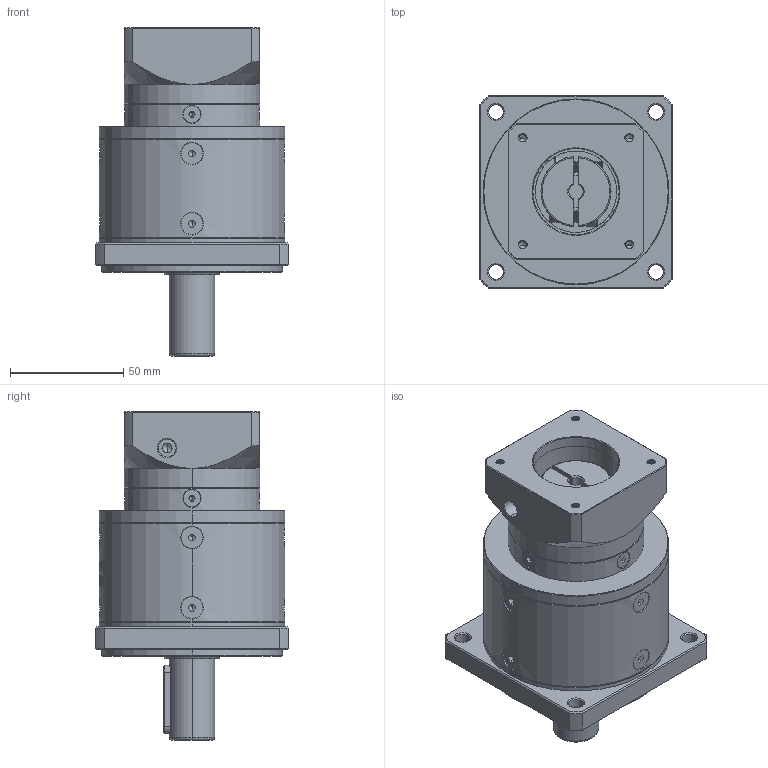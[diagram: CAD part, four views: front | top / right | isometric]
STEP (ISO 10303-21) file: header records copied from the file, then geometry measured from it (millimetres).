
FILE_DESCRIPTION (( 'STEP AP214' ), '1' );
FILE_NAME ('ZF080-D20-L2-P2-6.35-38.1-47.14X47.14-M4.step', '2023-08-19T06:53:22', ( '' ), ( '' ), 'SwSTEP 2.0', 'SolidWorks 2016', '' );
FILE_SCHEMA (( 'AUTOMOTIVE_DESIGN' ));
Length unit declared in the file: millimetre
Products named in the file (1): ZF080-D20-L2-P2-6.35-38.1-47.14X47.14-M4
Bounding box: 85 x 85 x 145 mm (x, y, z)
Volume: 474775.2 mm3; surface area: 67429.1 mm2
Topology: 18 solids, 18 shells, 2254 faces, 5938 edges, 3785 vertices
Faces by surface type: plane 1123, bspline 394, cylinder 375, cone 320, torus 42
Entity records: 116535 total; most frequent: CARTESIAN_POINT 40864, ORIENTED_EDGE 11800, DIRECTION 8874, EDGE_CURVE 5900, VERTEX_POINT 3785, VECTOR 3128, LINE 3128, AXIS2_PLACEMENT_3D 2873
